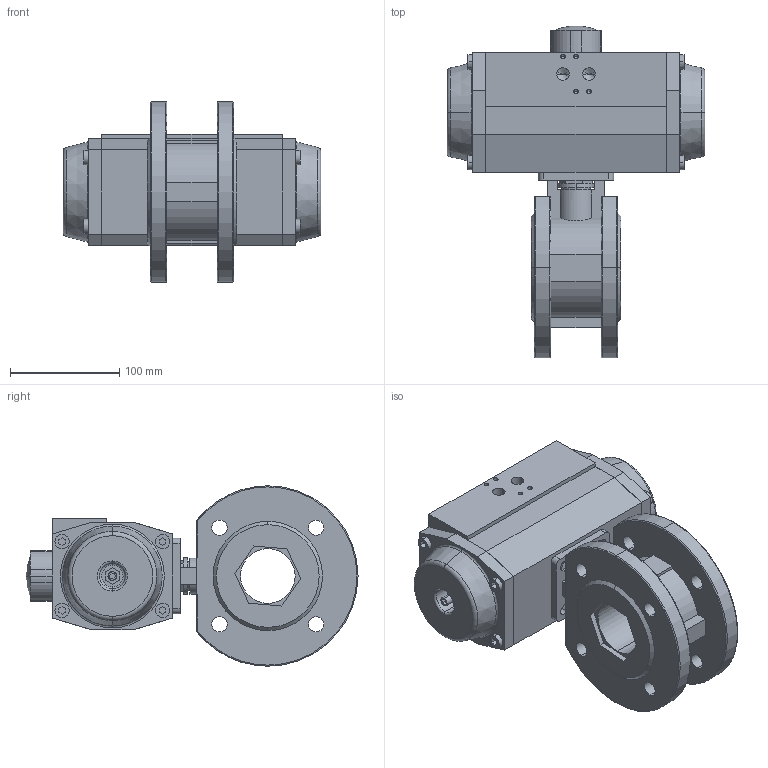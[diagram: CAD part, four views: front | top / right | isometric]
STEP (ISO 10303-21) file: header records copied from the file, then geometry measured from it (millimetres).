
FILE_DESCRIPTION (( 'STEP AP214' ), '1' );
FILE_NAME ('S15D DN50 AP3.5.STEP', '2013-07-10T11:25:10', ( 'Jan' ), ( '' ), 'SwSTEP 2.0', 'SolidWorks 2011', '' );
FILE_SCHEMA (( 'AUTOMOTIVE_DESIGN' ));
Length unit declared in the file: millimetre
Products named in the file (3): AP3.5_Default<As Machined>; S15D KK DN50 PN16; S15D DN50 AP3.5
Assembly tree (2 placements, depth 2):
  S15D DN50 AP3.5
    AP3.5_Default<As Machined>
    S15D KK DN50 PN16
Bounding box: 236 x 303.69 x 165 mm (x, y, z)
Volume: 3120402.2 mm3; surface area: 257826.4 mm2
Topology: 9 solids, 9 shells, 425 faces, 1063 edges, 675 vertices
Faces by surface type: plane 231, cylinder 128, cone 36, torus 28, sphere 2
Entity records: 13952 total; most frequent: CARTESIAN_POINT 2315, DIRECTION 2189, ORIENTED_EDGE 2070, EDGE_CURVE 1035, AXIS2_PLACEMENT_3D 743, VECTOR 703, LINE 703, VERTEX_POINT 675
